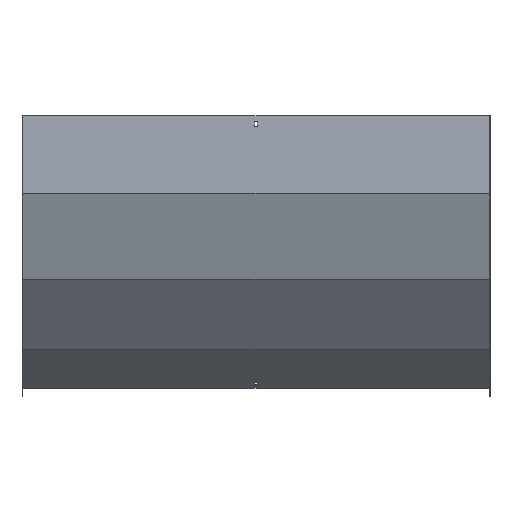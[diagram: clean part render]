
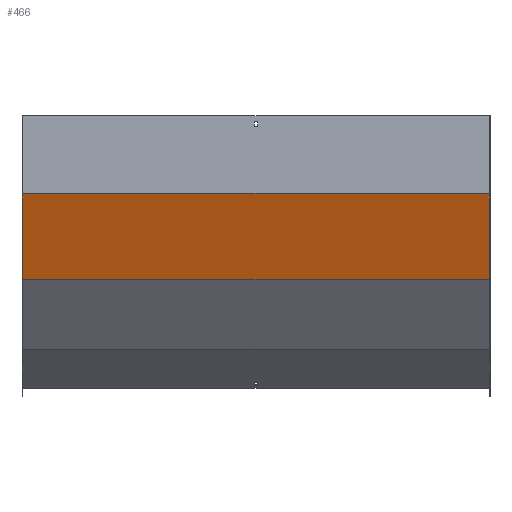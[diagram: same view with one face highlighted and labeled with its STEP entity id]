
A CAD part, front view. The second image highlights one B-rep face of the part: STEP entity #466.
In plain terms, the highlighted planar face has unit normal (0, -0.94, -0.342).
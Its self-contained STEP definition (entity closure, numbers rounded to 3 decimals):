
#10 = VECTOR ( 'NONE', #823, 1000. ) ;
#57 = DIRECTION ( 'NONE',  ( 0., -0.342, 0.94 ) ) ;
#65 = CARTESIAN_POINT ( 'NONE',  ( 451.5, -1.41, -150.313 ) ) ;
#70 = CARTESIAN_POINT ( 'NONE',  ( -450., 58.842, -315.854 ) ) ;
#72 = FACE_OUTER_BOUND ( 'NONE', #409, .T. ) ;
#215 = PLANE ( 'NONE',  #630 ) ;
#218 = LINE ( 'NONE', #460, #10 ) ;
#227 = DIRECTION ( 'NONE',  ( -1., 0., 0. ) ) ;
#232 = CARTESIAN_POINT ( 'NONE',  ( 451.5, -1.5, -150.064 ) ) ;
#275 = VERTEX_POINT ( 'NONE', #741 ) ;
#289 = EDGE_CURVE ( 'NONE', #780, #762, #218, .T. ) ;
#291 = CARTESIAN_POINT ( 'NONE',  ( -450., -1.5, -150.064 ) ) ;
#310 = CARTESIAN_POINT ( 'NONE',  ( 450., -1.5, -150.064 ) ) ;
#332 = VERTEX_POINT ( 'NONE', #310 ) ;
#333 = VECTOR ( 'NONE', #811, 1000. ) ;
#384 = EDGE_CURVE ( 'NONE', #332, #275, #700, .T. ) ;
#409 = EDGE_LOOP ( 'NONE', ( #761, #664, #781, #905 ) ) ;
#460 = CARTESIAN_POINT ( 'NONE',  ( -450., -49.554, -18.036 ) ) ;
#466 = ADVANCED_FACE ( 'NONE', ( #72 ), #215, .F. ) ;
#469 = CARTESIAN_POINT ( 'NONE',  ( 450., -49.554, -18.036 ) ) ;
#486 = DIRECTION ( 'NONE',  ( 0., 0.342, -0.94 ) ) ;
#508 = VECTOR ( 'NONE', #227, 1000. ) ;
#519 = VECTOR ( 'NONE', #486, 1000. ) ;
#570 = EDGE_CURVE ( 'NONE', #275, #762, #596, .T. ) ;
#596 = LINE ( 'NONE', #910, #508 ) ;
#630 = AXIS2_PLACEMENT_3D ( 'NONE', #65, #901, #57 ) ;
#664 = ORIENTED_EDGE ( 'NONE', *, *, #570, .F. ) ;
#681 = EDGE_CURVE ( 'NONE', #332, #780, #915, .T. ) ;
#700 = LINE ( 'NONE', #469, #519 ) ;
#741 = CARTESIAN_POINT ( 'NONE',  ( 450., 58.842, -315.854 ) ) ;
#761 = ORIENTED_EDGE ( 'NONE', *, *, #289, .T. ) ;
#762 = VERTEX_POINT ( 'NONE', #70 ) ;
#780 = VERTEX_POINT ( 'NONE', #291 ) ;
#781 = ORIENTED_EDGE ( 'NONE', *, *, #384, .F. ) ;
#811 = DIRECTION ( 'NONE',  ( -1., 0., 0. ) ) ;
#823 = DIRECTION ( 'NONE',  ( 0., 0.342, -0.94 ) ) ;
#901 = DIRECTION ( 'NONE',  ( 0., 0.94, 0.342 ) ) ;
#905 = ORIENTED_EDGE ( 'NONE', *, *, #681, .T. ) ;
#910 = CARTESIAN_POINT ( 'NONE',  ( 451.5, 58.842, -315.854 ) ) ;
#915 = LINE ( 'NONE', #232, #333 ) ;
